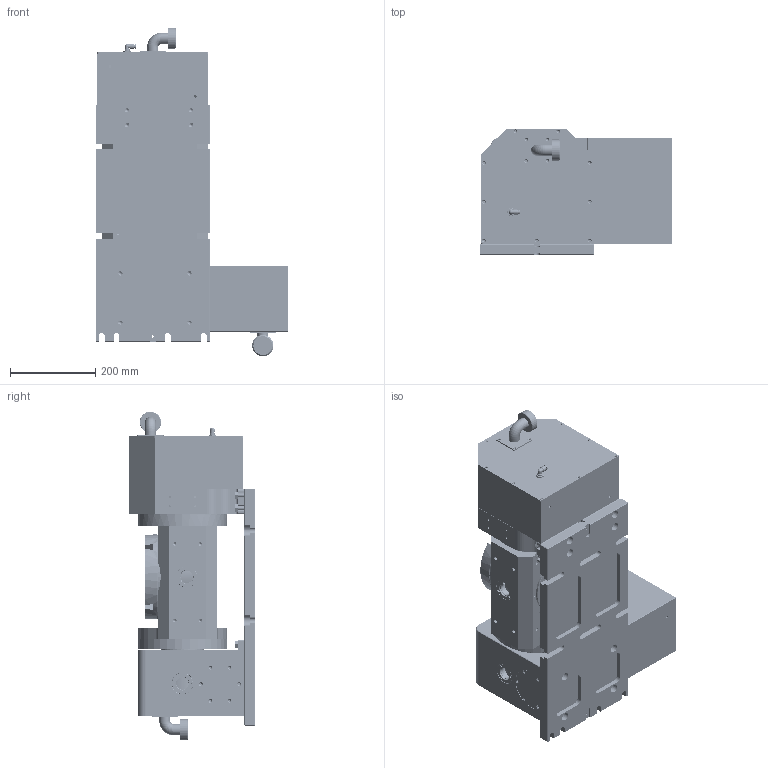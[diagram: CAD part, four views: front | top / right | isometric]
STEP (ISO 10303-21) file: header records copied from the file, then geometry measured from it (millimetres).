
FILE_DESCRIPTION (( 'STEP AP203' ), '1' );
FILE_NAME ('WDS-TH170 喜渡俋夤芞 REV.04.STEP', '2022-09-21T06:32:01', ( '' ), ( '' ), 'SwSTEP 2.0', 'SolidWorks 2021', '' );
FILE_SCHEMA (( 'CONFIG_CONTROL_DESIGN' ));
Products named in the file (1): WDS-TH170 喜渡俋夤芞 REV.04
Bounding box: 452 x 295 x 770.5 mm (x, y, z)
Volume: 27119354.3 mm3; surface area: 2490489.7 mm2
Topology: 28 solids, 50 shells, 3458 faces, 7948 edges, 4751 vertices
Faces by surface type: cylinder 1424, plane 1110, cone 788, torus 123, bspline 8, sphere 5
Entity records: 98690 total; most frequent: CARTESIAN_POINT 19282, DIRECTION 17825, ORIENTED_EDGE 15316, EDGE_CURVE 7658, AXIS2_PLACEMENT_3D 7026, VERTEX_POINT 4751, EDGE_LOOP 4161, LINE 3773
